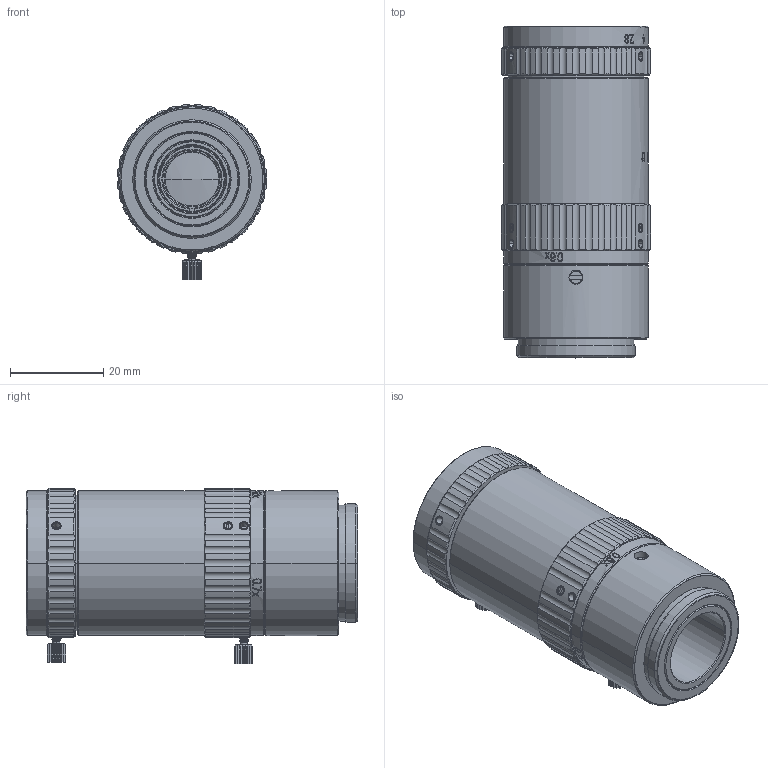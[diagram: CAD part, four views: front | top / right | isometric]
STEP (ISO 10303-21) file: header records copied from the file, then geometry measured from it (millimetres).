
FILE_DESCRIPTION((''),'2;1');
FILE_NAME('ML5010A-200_ASM','2023-12-11T16:13:08',('user'),(''),'CREO PARAMETRIC BY PTC INC, 2022073','CREO PARAMETRIC BY PTC INC, 2022073','');
FILE_SCHEMA(('CONFIG_CONTROL_DESIGN'));
Products named in the file (43): 505_AF0; 502_AF0; 601_AF0; 513_AF0; MA090-02-01_1_3_AF0; MA090-02-02_1_3_AF0; MB1850-02-03________1_1_AF0; MB1850-02-03________1_1_AF1; MA090-01-01_ASM_1_ASM_2_AF0_ASM; MA090-02-03_1_7_AF0; MA090-02-04_1_2_AF0; 203_ASM_1_ASM_1_AF0_ASM; 203_ASM_ASM_6_AF0_ASM; 203_ASM_ASM_AF0_ASM; 551_AF0; JD20202001-01_AF0; JD20202001-01_AF1; 202_AF0_ASM; 501_AF0; 303_AF0; 302_AF0; 512_AF0; 301_AF0; 511_AF0; 201_AF0_ASM; 503_AF0; 514; 507_AF0; 506_AF0; 508_AF0; 504_AF0; 541_AF0; 541_AF1; ML3510A-531_AF0; ML3510A-531; 541_AF2; 521_AF0; 521_AF1; 521_AF2; JD20202001-01_AF2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
Assembly tree (42 placements, depth 7):
  ML5010A-200_ASM
    505_AF0
    202_AF0_ASM
      502_AF0
      601_AF0
      513_AF0
      203_ASM_ASM_AF0_ASM
        203_ASM_ASM_6_AF0_ASM
          203_ASM_1_ASM_1_AF0_ASM
            MA090-02-01_1_3_AF0
            MA090-01-01_ASM_1_ASM_2_AF0_ASM
              MA090-02-02_1_3_AF0
              MB1850-02-03________1_1_AF0
              MB1850-02-03________1_1_AF1
            MA090-02-03_1_7_AF0
            MA090-02-04_1_2_AF0
      551_AF0
      JD20202001-01_AF0
      JD20202001-01_AF1
    201_AF0_ASM
      501_AF0
      303_AF0
      302_AF0
      512_AF0
      301_AF0
      511_AF0
    503_AF0
    514
    507_AF0
    506_AF0
    508_AF0
    504_AF0
    541_AF0
    541_AF1
    ML3510A-531_AF0
    ML3510A-531
    541_AF2
    521_AF0
    521_AF1
    521_AF2
    JD20202001-01_AF2
    JD20202001-01_AF3
    JD20202001-01_AF4
Bounding box: 31.98 x 71.05 x 37.48 mm (x, y, z)
Volume: 16136.4 mm3; surface area: 34654.9 mm2
Topology: 26 solids, 57 shells, 2115 faces, 5694 edges, 3671 vertices
Faces by surface type: bspline 779, plane 518, cylinder 504, cone 292, torus 16, sphere 6
Entity records: 92758 total; most frequent: CARTESIAN_POINT 44459, ORIENTED_EDGE 11148, DIRECTION 7708, EDGE_CURVE 5636, VERTEX_POINT 3659, AXIS2_PLACEMENT_3D 2733, EDGE_LOOP 2259, VECTOR 2242
